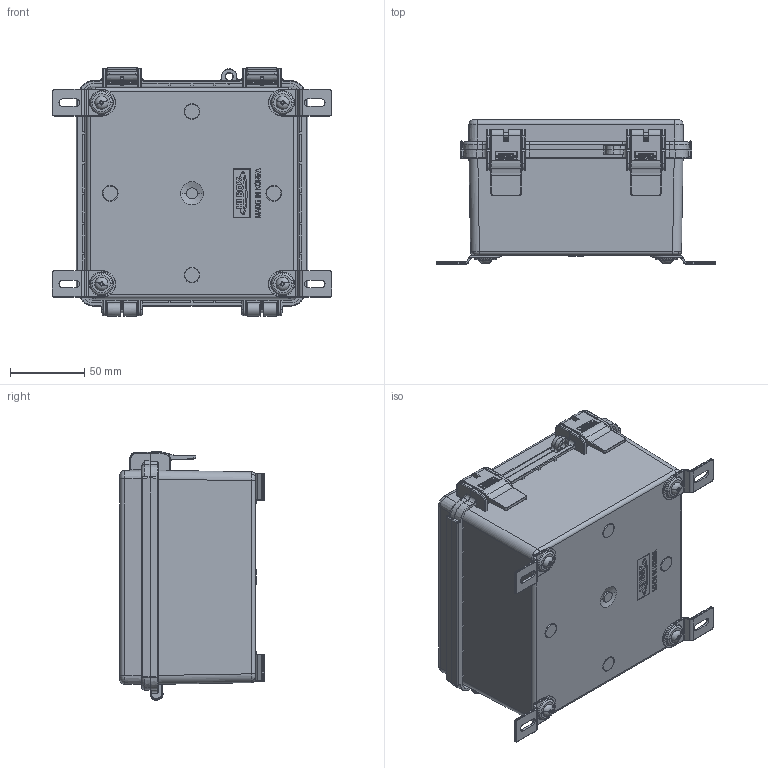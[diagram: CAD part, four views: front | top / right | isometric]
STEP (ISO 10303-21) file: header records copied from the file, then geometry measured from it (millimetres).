
FILE_DESCRIPTION (( 'STEP AP214' ), '1' );
FILE_NAME ('WH-10-01.STEP', '2024-11-26T20:11:49', ( '' ), ( '' ), 'SwSTEP 2.0', 'SolidWorks 2024', '' );
FILE_SCHEMA (( 'AUTOMOTIVE_DESIGN' ));
Length unit declared in the file: inch
Products named in the file (8): WH-02L_WH-02L-01; WH-10C_WH-10C-01; SCREWS-005_SCREWS-005; WH-90_WH-90; WH-90F_WH-90F; WH-10-01; WH-10S_WH-10S-01; WH-10B_WH-10B-01
Assembly tree (14 placements, depth 3):
  WH-10-01
    WH-10S_WH-10S-01
      WH-10B_WH-10B-01
      WH-10C_WH-10C-01
      WH-02L_WH-02L-01  x2
    WH-90_WH-90
      WH-90F_WH-90F  x4
      SCREWS-005_SCREWS-005  x4
Bounding box: 187.8 x 97.27 x 167.04 mm (x, y, z)
Volume: 312086.8 mm3; surface area: 228994.6 mm2
Topology: 13 solids, 13 shells, 3542 faces, 8964 edges, 5441 vertices
Faces by surface type: plane 1263, cylinder 904, bspline 836, torus 308, sphere 130, cone 101
Entity records: 92398 total; most frequent: CARTESIAN_POINT 33397, ORIENTED_EDGE 13410, DIRECTION 10382, EDGE_CURVE 6705, VERTEX_POINT 4210, LINE 3774, VECTOR 3774, AXIS2_PLACEMENT_3D 3304
